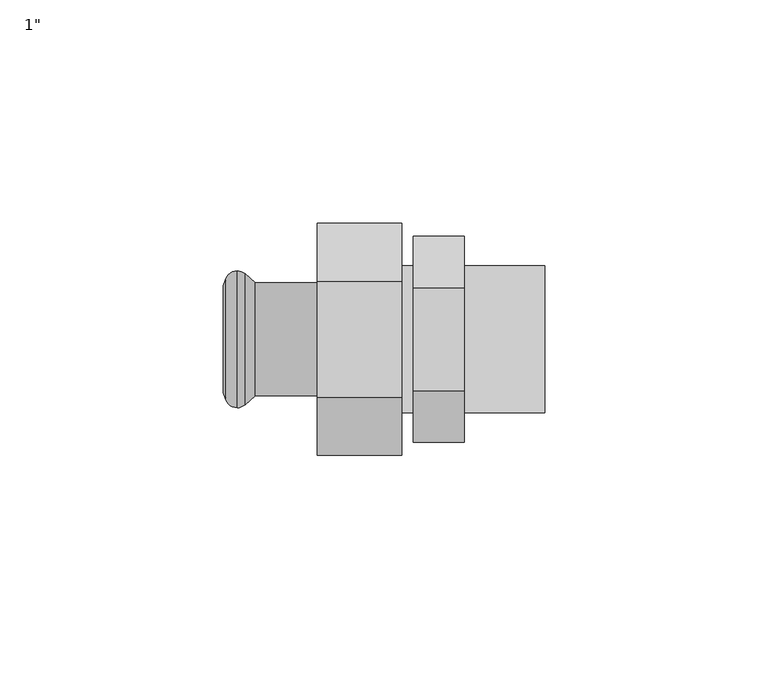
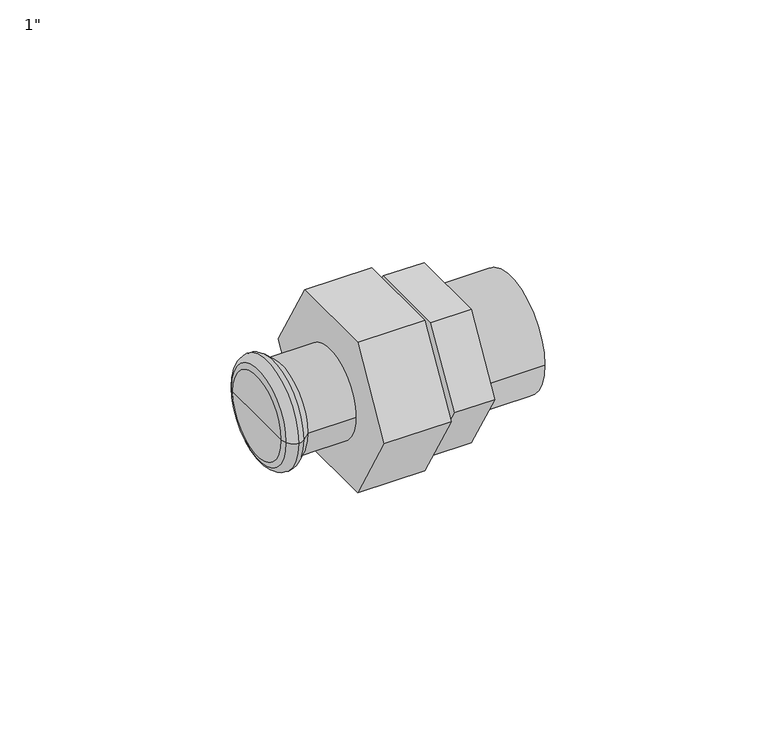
"""IFC4 building model written with IfcOpenShell, lengths in millimetres: pipe fitting geometry."""

import ifcopenshell
import ifcopenshell.guid

model = None  # the IFC model being written
_history = None  # IfcOwnerHistory: only IFC2X3 demands one
_inside = {}  # id of a spatial element -> (the spatial element, [elements in it])
_under = {}  # id of a project, library or spatial element -> (it, [spatial elements below it])
_declared = {}  # id of a project -> (the project, [libraries it declares])
_typed = {}  # id of a type object -> (the type object, [elements of that type])
_made_of = {}  # id of a material, layer set ... -> (it, [elements and type objects made of it])


def new_model(schema):
    """Start an empty IFC model of exactly this schema.

    Asked for "IFC4X3", IfcOpenShell would pick the latest addendum, in which some entities
    have other attributes; the version numbers below select the first issue.
    IFC2X3 requires an IfcOwnerHistory on every rooted entity: one is made here for all.
    """
    global model, _history
    if schema == "IFC4X3":
        model = ifcopenshell.file(schema_version=(4, 3, 0, 0))
    else:
        model = ifcopenshell.file(schema=schema)
    _inside.clear()
    _under.clear()
    _declared.clear()
    _typed.clear()
    _made_of.clear()
    _history = None
    if model.schema == "IFC2X3":
        org = make("IfcOrganization", Name="unknown")
        user = make(
            "IfcPersonAndOrganization",
            ThePerson=make("IfcPerson", FamilyName="unknown"),
            TheOrganization=org,
        )
        app = make(
            "IfcApplication",
            ApplicationDeveloper=org,
            Version="unknown",
            ApplicationFullName="unknown",
            ApplicationIdentifier="unknown",
        )
        _history = make(
            "IfcOwnerHistory",
            OwningUser=user,
            OwningApplication=app,
            ChangeAction="ADDED",
            CreationDate=0,
        )
    return model


def make(cls, **values):
    """One entity of the class cls with the attributes given. An attribute that is None is left unset."""
    return model.create_entity(
        cls, **{name: value for name, value in values.items() if value is not None}
    )


def rooted(cls, **values):
    """An entity with a GlobalId (a new one), such as an element, a storey or a relation."""
    return make(cls, GlobalId=ifcopenshell.guid.new(), OwnerHistory=_history, **values)


def si_unit(unit_type, name, prefix=None):
    """IfcSIUnit, for example si_unit("LENGTHUNIT", "METRE", prefix="MILLI")."""
    return make("IfcSIUnit", UnitType=unit_type, Prefix=prefix, Name=name)


def assignment(units):
    """IfcUnitAssignment: the units of a project."""
    return None if units is None else make("IfcUnitAssignment", Units=units)


def point(xyz):
    """IfcCartesianPoint."""
    return None if xyz is None else make("IfcCartesianPoint", Coordinates=xyz)


def direction(xyz):
    """IfcDirection."""
    return None if xyz is None else make("IfcDirection", DirectionRatios=xyz)


def frame(location, z_axis=None, x_axis=None):
    """IfcAxis2Placement3D, a coordinate frame: its origin and axes. An axis left out is left unset."""
    return make(
        "IfcAxis2Placement3D",
        Location=point(location),
        Axis=direction(z_axis),
        RefDirection=direction(x_axis),
    )


def frame_2d(location, x_axis=None):
    """IfcAxis2Placement2D, a coordinate frame in the plane: its origin and x axis."""
    return make(
        "IfcAxis2Placement2D", Location=point(location), RefDirection=direction(x_axis)
    )


def origin():
    """The frame at (0, 0, 0) with its axes left unset."""
    return frame((0.0, 0.0, 0.0))


def origin_2d():
    """The frame at (0, 0) in the plane with its x axis left unset."""
    return frame_2d((0.0, 0.0))


def place(relative_to, where):
    """IfcLocalPlacement: puts the frame where relative to a parent placement (None: the world)."""
    return make(
        "IfcLocalPlacement", PlacementRelTo=relative_to, RelativePlacement=where
    )


def context(
    kind, dimensions, precision=None, world=None, true_north=None, identifier=None
):
    """IfcGeometricRepresentationContext, for example the 3D "Model" context."""
    return make(
        "IfcGeometricRepresentationContext",
        ContextIdentifier=identifier,
        ContextType=kind,
        CoordinateSpaceDimension=dimensions,
        Precision=precision,
        WorldCoordinateSystem=world,
        TrueNorth=true_north,
    )


def project(units=None, contexts=None):
    """IfcProject with its units and contexts."""
    return rooted(
        "IfcProject",
        Name="project",
        RepresentationContexts=contexts,
        UnitsInContext=assignment(units),
    )


def spatial(cls, under=None, at=None, **own):
    """A site, building, storey or space (cls), placed at a placement, below another one or the project."""
    s = rooted(cls, ObjectPlacement=at, **own)
    if under is not None:
        _under.setdefault(under.id(), (under, []))[1].append(s)
    return s


def polyline(points):
    """IfcPolyline through the points."""
    return make("IfcPolyline", Points=[point(p) for p in points])


def circle_curve(where, radius):
    """IfcCircle in the frame where."""
    return make("IfcCircle", Position=where, Radius=radius)


def ellipse_curve(where, semi_axis1, semi_axis2):
    """IfcEllipse in the frame where."""
    return make(
        "IfcEllipse", Position=where, SemiAxis1=semi_axis1, SemiAxis2=semi_axis2
    )


def trimmed(basis, trim1, trim2, sense, master):
    """IfcTrimmedCurve: the piece of a basis curve between two trims."""
    return make(
        "IfcTrimmedCurve",
        BasisCurve=basis,
        Trim1=trim1,
        Trim2=trim2,
        SenseAgreement=sense,
        MasterRepresentation=master,
    )


def segment(curve, same_sense, transition):
    """IfcCompositeCurveSegment."""
    return make(
        "IfcCompositeCurveSegment",
        Transition=transition,
        SameSense=same_sense,
        ParentCurve=curve,
    )


def composite_curve(segments, self_intersect=None):
    """IfcCompositeCurve: segments joined end to end."""
    return make("IfcCompositeCurve", Segments=segments, SelfIntersect=self_intersect)


def outline(outer, holes=None, kind="AREA"):
    """IfcArbitraryClosedProfileDef: a profile drawn as a closed curve; with holes, ...WithVoids."""
    if holes is None:
        return make("IfcArbitraryClosedProfileDef", ProfileType=kind, OuterCurve=outer)
    return make(
        "IfcArbitraryProfileDefWithVoids",
        ProfileType=kind,
        OuterCurve=outer,
        InnerCurves=holes,
    )


def extrude(swept, where, along, depth):
    """IfcExtrudedAreaSolid: the profile swept, set in the frame where, extruded along a direction by depth."""
    return make(
        "IfcExtrudedAreaSolid",
        SweptArea=swept,
        Position=where,
        ExtrudedDirection=direction(along),
        Depth=depth,
    )


def shape(context_of_items, identifier, shape_type, items):
    """IfcShapeRepresentation: the items that make up one representation, for example the "Body"."""
    return make(
        "IfcShapeRepresentation",
        ContextOfItems=context_of_items,
        RepresentationIdentifier=identifier,
        RepresentationType=shape_type,
        Items=items,
    )


def source(mapping_origin, context_of_items, identifier, shape_type, items):
    """IfcRepresentationMap: a shape defined once, which mapped items show again and again."""
    return make(
        "IfcRepresentationMap",
        MappingOrigin=mapping_origin,
        MappedRepresentation=shape(context_of_items, identifier, shape_type, items),
    )


def transform(
    local_origin,
    x_axis=None,
    y_axis=None,
    z_axis=None,
    scale=None,
    scale2=None,
    scale3=None,
    uniform=True,
):
    """IfcCartesianTransformationOperator3D, or its non-uniform kind. x_axis, y_axis, z_axis: its Axis1, 2, 3."""
    if uniform:
        return make(
            "IfcCartesianTransformationOperator3D",
            Axis1=direction(x_axis),
            Axis2=direction(y_axis),
            LocalOrigin=point(local_origin),
            Scale=scale,
            Axis3=direction(z_axis),
        )
    return make(
        "IfcCartesianTransformationOperator3DnonUniform",
        Axis1=direction(x_axis),
        Axis2=direction(y_axis),
        LocalOrigin=point(local_origin),
        Scale=scale,
        Axis3=direction(z_axis),
        Scale2=scale2,
        Scale3=scale3,
    )


def mapped(mapping_source, mapping_target):
    """IfcMappedItem: shows the shape of a source again, moved by a transform."""
    return make(
        "IfcMappedItem", MappingSource=mapping_source, MappingTarget=mapping_target
    )


def made_of(thing, what):
    """Note that an element or type object is made of a material, layer set ...; save() writes the relation."""
    if what is not None:
        _made_of.setdefault(what.id(), (what, []))[1].append(thing)
    return thing


def element(
    cls,
    number,
    at=None,
    inside=None,
    cuts=None,
    type_object=None,
    material=None,
    context=None,
    identifier="Body",
    shape_type=None,
    held_by="IfcProductDefinitionShape",
    body=None,
    shapes=None,
    **own,
):
    """One element of the class cls, such as IfcWall. Its Tag is "e" and its number.

    at: its placement. inside: the storey or other place that contains it. cuts: it is an
    opening in that element (IfcRelVoidsElement). A single representation is given by context,
    identifier, shape_type and body (its items); several are given by shapes. held_by: the class
    of the entity that holds the representations. save() writes the other relations.
    """
    e = rooted(cls, Tag="e%d" % number, ObjectPlacement=at, **own)
    if body is not None:
        shapes = [shape(context, identifier, shape_type, body)]
    if shapes is not None:
        e.Representation = make(held_by, Representations=shapes)
    if inside is not None:
        _inside.setdefault(inside.id(), (inside, []))[1].append(e)
    if cuts is not None:
        rooted(
            "IfcRelVoidsElement", RelatingBuildingElement=cuts, RelatedOpeningElement=e
        )
    if type_object is not None:
        _typed.setdefault(type_object.id(), (type_object, []))[1].append(e)
    return made_of(e, material)


def aggregate(whole, parts):
    """IfcRelAggregates: a whole, such as a stair, and the parts it consists of."""
    return rooted("IfcRelAggregates", RelatingObject=whole, RelatedObjects=parts)


def save(model, path):
    """Write the relations noted so far, then the file.

    IfcRelAggregates (storeys below a building ...), IfcRelContainedInSpatialStructure (elements
    in a storey), IfcRelDefinesByType, IfcRelAssociatesMaterial and IfcRelDeclares: one each for
    every whole, place, type object, material and project.
    """
    for whole, parts in _under.values():
        aggregate(whole, parts)
    for where, things in _inside.values():
        rooted(
            "IfcRelContainedInSpatialStructure",
            RelatedElements=things,
            RelatingStructure=where,
        )
    for kind, things in _typed.values():
        rooted("IfcRelDefinesByType", RelatedObjects=things, RelatingType=kind)
    for what, things in _made_of.values():
        rooted("IfcRelAssociatesMaterial", RelatedObjects=things, RelatingMaterial=what)
    for by, libraries in _declared.values():
        rooted("IfcRelDeclares", RelatingContext=by, RelatedDefinitions=libraries)
    model.write(path)


def plane_surface(at):
    """IfcPlane: the flat surface through the origin of the frame at, square to its z axis."""
    return make("IfcPlane", Position=at)


def cylinder_surface(at, radius):
    """IfcCylindricalSurface: all points at the distance radius from the z axis of the frame at."""
    return make("IfcCylindricalSurface", Position=at, Radius=radius)


def revolved_surface(curve, axis_point, axis_direction):
    """IfcSurfaceOfRevolution: the curve turned about the line through axis_point along axis_direction."""
    return make(
        "IfcSurfaceOfRevolution",
        SweptCurve=make("IfcArbitraryOpenProfileDef", ProfileType="CURVE", Curve=curve),
        AxisPosition=make("IfcAxis1Placement", Location=point(axis_point), Axis=direction(axis_direction)),
    )


def advanced_brep(points, edges, surfaces, faces):
    """IfcAdvancedBrep: a solid bounded by faces that lie on surfaces and meet in shared edges.

    An edge is (start, end): straight between two places in points (the first is 0);
    or (start, end, curve); or (start, end, curve, False) where it runs against its curve.
    A face is (place in surfaces, loops), or (place, loops, False) where it looks against
    its surface's normal. A loop lists edges by number (the first is 1), with a minus sign
    where the edge is run from its end to its start. The first loop is the outer one.
    """
    corners = [point(p) for p in points]
    vertices = [make("IfcVertexPoint", VertexGeometry=c) for c in corners]
    made = []
    for start, end, *more in edges:
        made.append(
            make(
                "IfcEdgeCurve",
                EdgeStart=vertices[start],
                EdgeEnd=vertices[end],
                EdgeGeometry=more[0] if more else make("IfcPolyline", Points=[corners[start], corners[end]]),
                SameSense=more[1] if len(more) > 1 else True,
            )
        )
    hull = []
    for where, loops, *sense in faces:
        bounds = []
        for j, loop in enumerate(loops):
            ring = [make("IfcOrientedEdge", EdgeElement=made[abs(k) - 1], Orientation=k > 0) for k in loop]
            bounds.append(
                make(
                    "IfcFaceOuterBound" if j == 0 else "IfcFaceBound",
                    Bound=make("IfcEdgeLoop", EdgeList=ring),
                    Orientation=True,
                )
            )
        hull.append(make("IfcAdvancedFace", Bounds=bounds, FaceSurface=surfaces[where], SameSense=sense[0] if sense else True))
    return make("IfcAdvancedBrep", Outer=make("IfcClosedShell", CfsFaces=hull))


def pipe_fitting_643fa46a(model_context):
    return source(origin(), model_context, "Body", "SolidModel", [
        extrude(outline(polyline([(-23.0940108, 0.0), (-11.5470054, 20.0), (11.5470054, 20.0), (23.0940108, 0.0), (11.5470054, -20.0), (-11.5470054, -20.0), (-23.0940108, 0.0)])), frame((21.5, 0.0, 0.0), z_axis=(1.0, 0.0, 0.0), x_axis=(0.0, 1.0, 0.0)), (0.0, 0.0, 1.0), 11.5),
        extrude(outline(composite_curve([segment(trimmed(circle_curve(origin_2d(), 16.5), [point((-16.5, 0.0))], [point((16.5, 0.0))], False, "CARTESIAN"), True, "CONTINUOUS"), segment(trimmed(circle_curve(origin_2d(), 16.5), [point((16.5, 0.0))], [point((-16.5, 0.0))], False, "CARTESIAN"), True, "CONTINUOUS")], self_intersect=False)), frame((19.0, 0.0, 0.0), z_axis=(1.0, 0.0, 0.0), x_axis=(0.0, 1.0, 0.0)), (0.0, 0.0, 1.0), 32.0),
        extrude(outline(polyline([(-25.9807621, 0.0), (-12.9903811, 22.5), (12.9903811, 22.5), (25.9807621, 0.0), (12.9903811, -22.5), (-12.9903811, -22.5), (-25.9807621, 0.0)])), frame((0.0, 0.0, 0.0), z_axis=(1.0, 0.0, 0.0), x_axis=(0.0, 1.0, 0.0)), (0.0, 0.0, 1.0), 19.0),
        advanced_brep(
        [(-13.7838092, -12.7, 0.0), (-13.7838092, 12.7, 0.0), (0.0, 12.7, 0.0), (0.0, -12.7, 0.0), (-16.0922627, -14.6370225, 0.0), (-16.0922627, 14.6370225, 0.0), (-17.8921278, -15.325, 0.0), (-17.8921278, 15.325, 0.0), (-20.432052, -13.5484544, 0.0), (-20.432052, 13.5484544, 0.0), (-21.0, -11.9880302, 0.0), (-21.0, 11.9880302, 0.0), (-21.0, 0.0, 0.0), (0.0, 0.0, 0.0)],
        [
            (0, 1, circle_curve(frame((-13.7838092, 0.0, 0.0), z_axis=(1.0, 0.0, 0.0), x_axis=(0.0, 1.0, 0.0)), 12.7)),
            (1, 2),
            (2, 3, circle_curve(frame((0.0, 0.0, 0.0), z_axis=(-1.0, 0.0, 0.0), x_axis=(0.0, 1.0, 0.0)), 12.7)),
            (3, 0),
            (1, 0, circle_curve(frame((-13.7838092, 0.0, 0.0), z_axis=(1.0, 0.0, 0.0), x_axis=(0.0, 1.0, 0.0)), 12.7)),
            (3, 2, circle_curve(frame((0.0, 0.0, 0.0), z_axis=(-1.0, 0.0, 0.0), x_axis=(0.0, 1.0, 0.0)), 12.7)),
            (4, 5, circle_curve(frame((-16.0922627, 0.0, 0.0), z_axis=(1.0, 0.0, 0.0), x_axis=(0.0, 1.0, 0.0)), 14.6370225)),
            (5, 1),
            (0, 4),
            (5, 4, circle_curve(frame((-16.0922627, 0.0, 0.0), z_axis=(1.0, 0.0, 0.0), x_axis=(0.0, 1.0, 0.0)), 14.6370225)),
            (6, 7, circle_curve(frame((-17.8921278, 0.0, 0.0), z_axis=(1.0, 0.0, 0.0), x_axis=(0.0, 1.0, 0.0)), 15.325)),
            (7, 5, circle_curve(frame((-17.8935049, 12.6230333, 0.0), z_axis=(0.0, 0.0, -1.0), x_axis=(1.0, 0.0, 0.0)), 2.701967)),
            (4, 6, circle_curve(frame((-17.8935049, -12.6230333, 0.0), z_axis=(0.0, 0.0, -1.0), x_axis=(1.0, 0.0, 0.0)), 2.701967)),
            (7, 6, circle_curve(frame((-17.8921278, 0.0, 0.0), z_axis=(1.0, 0.0, 0.0), x_axis=(0.0, 1.0, 0.0)), 15.325)),
            (8, 9, circle_curve(frame((-20.432052, 0.0, 0.0), z_axis=(1.0, 0.0, 0.0), x_axis=(0.0, 1.0, 0.0)), 13.5484544)),
            (9, 7, circle_curve(frame((-17.89488, 12.6249993, 0.0), z_axis=(0.0, 0.0, -1.0), x_axis=(1.0, 0.0, 0.0)), 2.7000021)),
            (6, 8, circle_curve(frame((-17.89488, -12.6249993, 0.0), z_axis=(0.0, 0.0, -1.0), x_axis=(1.0, 0.0, 0.0)), 2.7000021)),
            (9, 8, circle_curve(frame((-20.432052, 0.0, 0.0), z_axis=(1.0, 0.0, 0.0), x_axis=(0.0, 1.0, 0.0)), 13.5484544)),
            (10, 11, circle_curve(frame((-21.0, 0.0, 0.0), z_axis=(1.0, 0.0, 0.0), x_axis=(0.0, 1.0, 0.0)), 11.9880302)),
            (11, 9),
            (8, 10),
            (11, 10, circle_curve(frame((-21.0, 0.0, 0.0), z_axis=(1.0, 0.0, 0.0), x_axis=(0.0, 1.0, 0.0)), 11.9880302)),
            (12, 11),
            (10, 12),
            (2, 13),
            (13, 3),
        ],
        [
            cylinder_surface(frame((1364.742668, 0.0, 0.0), z_axis=(-1.0, 0.0, 0.0), x_axis=(0.0, 1.0, 0.0)), 12.7),
            revolved_surface(polyline([(-13.7838092, 12.7, 0.0), (-16.0922627, 14.6370225, 0.0)]), (1364.742668, 0.0, 0.0), (-1.0, 0.0, 0.0)),
            revolved_surface(trimmed(ellipse_curve(frame((-17.8935049, 12.6230333, 0.0), z_axis=(0.0, 0.0, 1.0), x_axis=(1.0, 0.0, 0.0)), 2.701967, 2.701967), [point((-16.0922627, 14.6370225, 0.0))], [point((-17.8921278, 15.325, 0.0))], True, "CARTESIAN"), (1364.742668, 0.0, 0.0), (-1.0, 0.0, 0.0)),
            revolved_surface(trimmed(ellipse_curve(frame((-17.89488, 12.6249993, 0.0), z_axis=(0.0, 0.0, 1.0), x_axis=(1.0, 0.0, 0.0)), 2.7000021, 2.7000021), [point((-17.8921278, 15.325, 0.0))], [point((-20.432052, 13.5484544, 0.0))], True, "CARTESIAN"), (1364.742668, 0.0, 0.0), (-1.0, 0.0, 0.0)),
            revolved_surface(polyline([(-20.432052, 13.5484544, 0.0), (-21.0, 11.9880302, 0.0)]), (1364.742668, 0.0, 0.0), (-1.0, 0.0, 0.0)),
            plane_surface(frame((-21.0, 0.0, 0.0), z_axis=(-1.0, 0.0, 0.0), x_axis=(0.0, 1.0, 0.0))),
            plane_surface(frame((0.0, 0.0, 0.0), z_axis=(1.0, 0.0, 0.0), x_axis=(0.0, 1.0, 0.0))),
        ],
        [
            (0, [[1, 2, 3, 4]]),
            (0, [[5, -4, 6, -2]]),
            (1, [[7, 8, -1, 9]]),
            (1, [[10, -9, -5, -8]]),
            (2, [[11, 12, -7, 13]]),
            (2, [[14, -13, -10, -12]]),
            (3, [[15, 16, -11, 17]]),
            (3, [[18, -17, -14, -16]]),
            (4, [[19, 20, -15, 21]]),
            (4, [[22, -21, -18, -20]]),
            (5, [[23, -19, 24]]),
            (5, [[-24, -22, -23]]),
            (6, [[-3, 25, 26]]),
            (6, [[-6, -26, -25]]),
        ],
    ),
    ])


if __name__ == "__main__":
    model = new_model("IFC4")
    model_context = context("Model", 3, world=origin())
    ifc_project = project(units=[si_unit("LENGTHUNIT", "METRE", prefix="MILLI")], contexts=[model_context])
    site = spatial("IfcSite", under=ifc_project)
    building = spatial("IfcBuilding", under=site)
    placement = place(None, origin())
    pipe_fitting_shape = pipe_fitting_643fa46a(model_context)
    element("IfcPipeFitting", 1, ObjectType="KAN-therm Inox śrubunek GZ : 1\"", at=placement, inside=building, context=model_context, shape_type="MappedRepresentation", body=[
        mapped(pipe_fitting_shape, transform((0.0, 0.0, 0.0), x_axis=(1.0, 0.0, 0.0), y_axis=(0.0, 1.0, 0.0), z_axis=(0.0, 0.0, 1.0))),
    ])
    save(model, "model.ifc")
